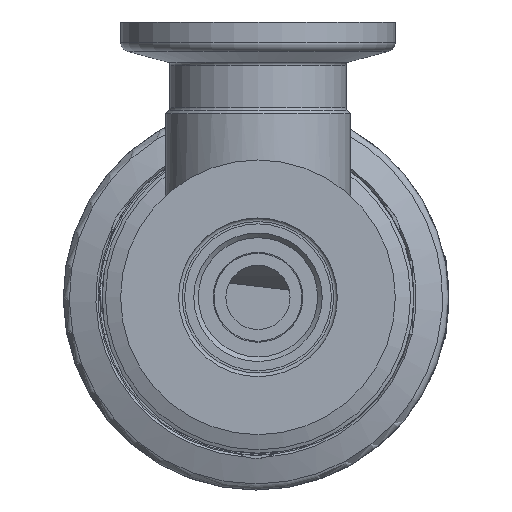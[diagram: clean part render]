
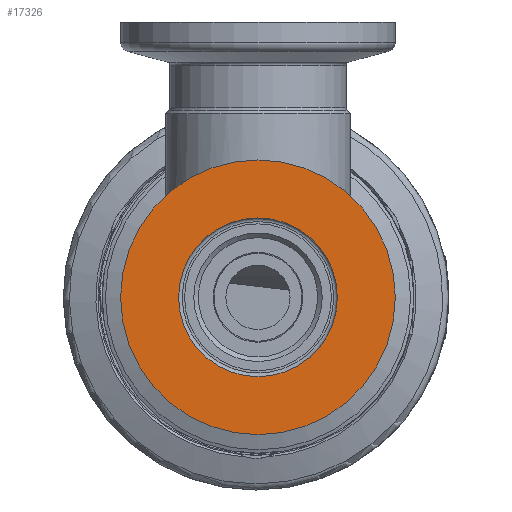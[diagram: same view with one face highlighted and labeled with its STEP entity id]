
A CAD part, left-side view. The second image highlights one B-rep face of the part: STEP entity #17326.
In plain terms, the highlighted planar face has unit normal (-1, 0, 0) as drawn and (0, 0, -1) by its records, which use the part's own axes.
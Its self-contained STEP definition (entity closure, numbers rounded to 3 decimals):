
#13184=PLANE('',#56924);
#17326=ADVANCED_FACE('',(#21428,#21429),#13184,.F.);
#21428=FACE_BOUND('',#21785,.T.);
#21429=FACE_BOUND('',#21786,.T.);
#21785=EDGE_LOOP('',(#25397));
#21786=EDGE_LOOP('',(#25398));
#25397=ORIENTED_EDGE('',*,*,#47557,.F.);
#25398=ORIENTED_EDGE('',*,*,#47556,.T.);
#42316=VERTEX_POINT('',#66227);
#42317=VERTEX_POINT('',#66230);
#47556=EDGE_CURVE('',#42316,#42316,#56020,.T.);
#47557=EDGE_CURVE('',#42317,#42317,#56021,.T.);
#56020=CIRCLE('',#56921,14.968);
#56021=CIRCLE('',#56923,8.65);
#56921=AXIS2_PLACEMENT_3D('',#66226,#59400,#59401);
#56923=AXIS2_PLACEMENT_3D('',#66229,#59404,#59405);
#56924=AXIS2_PLACEMENT_3D('',#66231,#59406,#59407);
#59400=DIRECTION('',(0.,0.,-1.));
#59401=DIRECTION('',(-1.,0.,0.));
#59404=DIRECTION('',(0.,0.,-1.));
#59405=DIRECTION('',(-1.,0.,0.));
#59406=DIRECTION('',(0.,0.,1.));
#59407=DIRECTION('',(1.,0.,0.));
#66226=CARTESIAN_POINT('',(0.,0.,2.2));
#66227=CARTESIAN_POINT('',(-14.968,0.,2.2));
#66229=CARTESIAN_POINT('',(0.,0.,2.2));
#66230=CARTESIAN_POINT('',(-8.65,0.,2.2));
#66231=CARTESIAN_POINT('',(0.,14.968,2.2));
